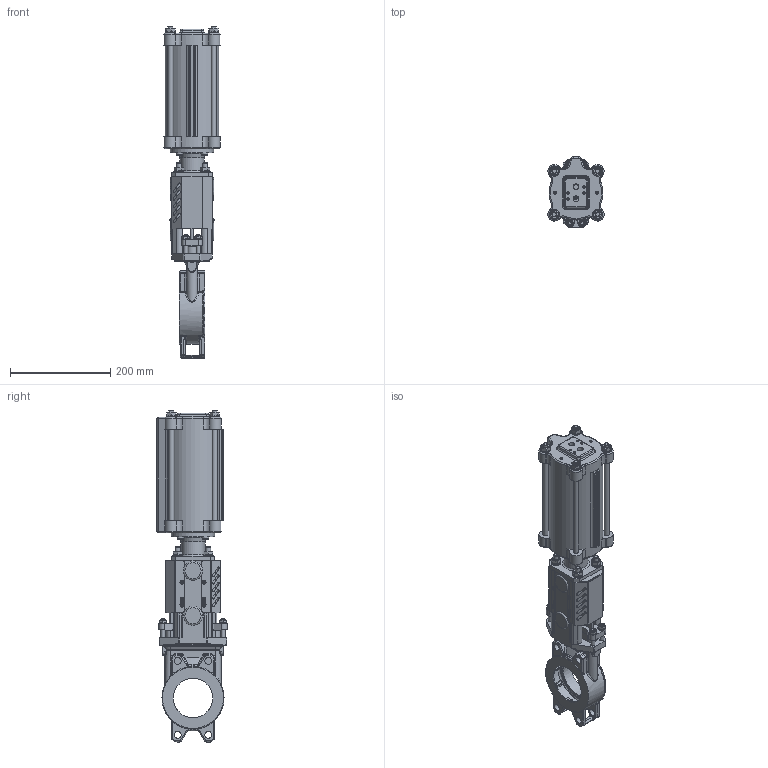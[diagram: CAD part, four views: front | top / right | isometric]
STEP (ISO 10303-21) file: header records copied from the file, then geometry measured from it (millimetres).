
FILE_DESCRIPTION(/* description */ (''),/* implementation_level */ '2;1');
FILE_NAME(/* name */ 'F:\Emir\3D-block special\MV VALVE\PNEUMATIC ACTUATOR\MV-DN80-PN10-FRSC100-115.stp',/* time_stamp */ '2018-03-27T08:29:35+02:00',/* author */ ('emimus'),/* organization */ (''),/* preprocessor_version */ 'ST-DEVELOPER v17',/* originating_system */ 'Autodesk Inventor 2018',/* authorisation */ '');
FILE_SCHEMA (('CONFIG_CONTROL_DESIGN'));
Products named in the file (1): MV-DN80-PN10-FRSC100-115-sat
Bounding box: 112.17 x 140 x 663 mm (x, y, z)
Volume: 1961832.1 mm3; surface area: 688829.2 mm2
Topology: 2 solids, 2 shells, 2217 faces, 5627 edges, 3490 vertices
Faces by surface type: plane 778, cylinder 598, bspline 284, torus 233, cone 226, sphere 98
Full cylindrical faces by diameter (mm): 3 x10, 4 x4, 4.134 x4, 4.2 x16, 4.5 x4, 4.917 x5, 6 x4, 6.647 x4, 8 x19, 8.376 x4, 8.4 x4, 9 x4, 10 x20, 10.106 x1, 10.5 x8, 11 x8, 11.34 x2, 11.445 x2, 13 x4, 13.835 x8, 14 x1, 15 x3, 16 x4, 18 x1, 20 x9, 20.15 x2, 22 x1, 24 x5, 26 x1, 26.4 x1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
Entity records: 82245 total; most frequent: CARTESIAN_POINT 29233, DIRECTION 11161, ORIENTED_EDGE 11136, EDGE_CURVE 5568, AXIS2_PLACEMENT_3D 4590, VERTEX_POINT 3490, CIRCLE 2478, EDGE_LOOP 2452
